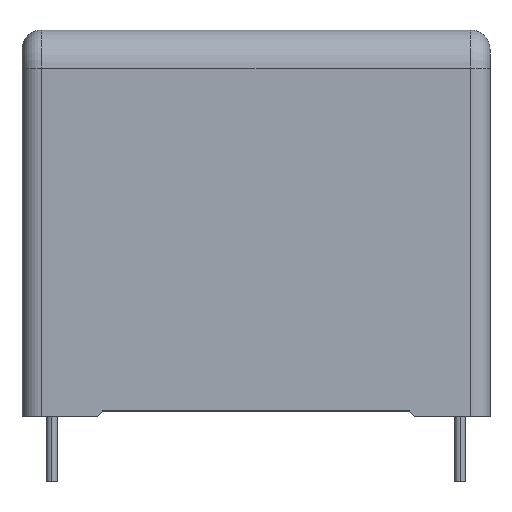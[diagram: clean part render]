
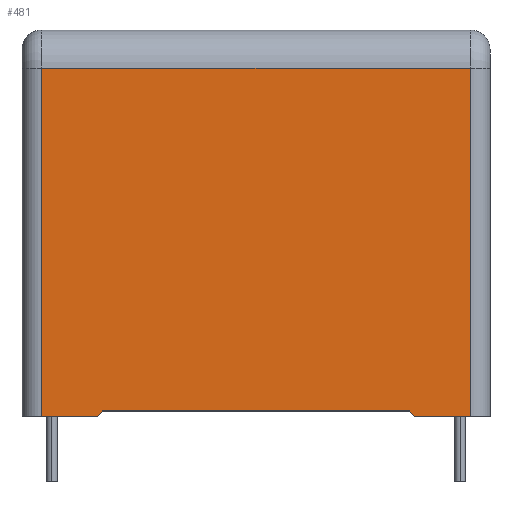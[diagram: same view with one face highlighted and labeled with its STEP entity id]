
A CAD part, top view. The second image highlights one B-rep face of the part: STEP entity #481.
In plain terms, the highlighted planar face has unit normal (0, 0, 1).
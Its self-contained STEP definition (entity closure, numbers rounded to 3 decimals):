
#17 = DIRECTION ( 'NONE',  ( -1., 0., 0. ) ) ;
#20 = VERTEX_POINT ( 'NONE', #2074 ) ;
#27 = DIRECTION ( 'NONE',  ( 1., 0., 0. ) ) ;
#156 = LINE ( 'NONE', #4207, #4313 ) ;
#255 = DIRECTION ( 'NONE',  ( 1., 0., 0. ) ) ;
#286 = EDGE_CURVE ( 'NONE', #4299, #774, #679, .T. ) ;
#481 = ADVANCED_FACE ( 'NONE', ( #2543 ), #3542, .F. ) ;
#584 = VECTOR ( 'NONE', #1099, 1000. ) ;
#629 = VECTOR ( 'NONE', #737, 1000. ) ;
#679 = LINE ( 'NONE', #1158, #584 ) ;
#685 = LINE ( 'NONE', #3106, #629 ) ;
#690 = VERTEX_POINT ( 'NONE', #4089 ) ;
#737 = DIRECTION ( 'NONE',  ( -1., 0., 0. ) ) ;
#741 = VERTEX_POINT ( 'NONE', #3686 ) ;
#774 = VERTEX_POINT ( 'NONE', #2278 ) ;
#1059 = EDGE_CURVE ( 'NONE', #3982, #20, #1869, .T. ) ;
#1099 = DIRECTION ( 'NONE',  ( -0.707, -0.707, 0. ) ) ;
#1102 = DIRECTION ( 'NONE',  ( 0., -1., 0. ) ) ;
#1138 = LINE ( 'NONE', #2950, #4012 ) ;
#1158 = CARTESIAN_POINT ( 'NONE',  ( -14.6, 0., 9.25 ) ) ;
#1191 = CARTESIAN_POINT ( 'NONE',  ( 14.6, 0., 9.25 ) ) ;
#1235 = CARTESIAN_POINT ( 'NONE',  ( 19.7, 0., 9.25 ) ) ;
#1250 = CARTESIAN_POINT ( 'NONE',  ( 19.7, 32., 9.25 ) ) ;
#1294 = LINE ( 'NONE', #3379, #3745 ) ;
#1594 = CARTESIAN_POINT ( 'NONE',  ( -14.1, 0.5, 9.25 ) ) ;
#1705 = ORIENTED_EDGE ( 'NONE', *, *, #2304, .T. ) ;
#1718 = VECTOR ( 'NONE', #4042, 1000. ) ;
#1869 = LINE ( 'NONE', #1950, #1718 ) ;
#1950 = CARTESIAN_POINT ( 'NONE',  ( 14.1, 0.5, 9.25 ) ) ;
#1991 = CARTESIAN_POINT ( 'NONE',  ( -14.1, 0.5, 9.25 ) ) ;
#2005 = EDGE_LOOP ( 'NONE', ( #3728, #3883, #3979, #4088, #1705, #2797, #3107, #3428 ) ) ;
#2060 = VECTOR ( 'NONE', #17, 1000. ) ;
#2074 = CARTESIAN_POINT ( 'NONE',  ( 14.1, 0.5, 9.25 ) ) ;
#2090 = EDGE_CURVE ( 'NONE', #4229, #4262, #156, .T. ) ;
#2127 = DIRECTION ( 'NONE',  ( 0., 1., 0. ) ) ;
#2278 = CARTESIAN_POINT ( 'NONE',  ( -14.6, 0., 9.25 ) ) ;
#2304 = EDGE_CURVE ( 'NONE', #4262, #690, #685, .T. ) ;
#2338 = EDGE_CURVE ( 'NONE', #690, #741, #1294, .T. ) ;
#2397 = LINE ( 'NONE', #1594, #2060 ) ;
#2543 = FACE_OUTER_BOUND ( 'NONE', #2005, .T. ) ;
#2679 = EDGE_CURVE ( 'NONE', #741, #774, #1138, .T. ) ;
#2719 = LINE ( 'NONE', #2826, #4165 ) ;
#2797 = ORIENTED_EDGE ( 'NONE', *, *, #2338, .T. ) ;
#2826 = CARTESIAN_POINT ( 'NONE',  ( -21.5, 0., 9.25 ) ) ;
#2950 = CARTESIAN_POINT ( 'NONE',  ( -21.5, 0., 9.25 ) ) ;
#3106 = CARTESIAN_POINT ( 'NONE',  ( -21.5, 32., 9.25 ) ) ;
#3107 = ORIENTED_EDGE ( 'NONE', *, *, #2679, .T. ) ;
#3287 = AXIS2_PLACEMENT_3D ( 'NONE', #3405, #3377, #3305 ) ;
#3305 = DIRECTION ( 'NONE',  ( -1., 0., 0. ) ) ;
#3377 = DIRECTION ( 'NONE',  ( 0., 0., -1. ) ) ;
#3379 = CARTESIAN_POINT ( 'NONE',  ( -19.7, 35.5, 9.25 ) ) ;
#3405 = CARTESIAN_POINT ( 'NONE',  ( -21.5, 35.5, 9.25 ) ) ;
#3428 = ORIENTED_EDGE ( 'NONE', *, *, #286, .F. ) ;
#3542 = PLANE ( 'NONE',  #3287 ) ;
#3566 = EDGE_CURVE ( 'NONE', #3982, #4229, #2719, .T. ) ;
#3686 = CARTESIAN_POINT ( 'NONE',  ( -19.7, 0., 9.25 ) ) ;
#3728 = ORIENTED_EDGE ( 'NONE', *, *, #4241, .F. ) ;
#3745 = VECTOR ( 'NONE', #1102, 1000. ) ;
#3883 = ORIENTED_EDGE ( 'NONE', *, *, #1059, .F. ) ;
#3979 = ORIENTED_EDGE ( 'NONE', *, *, #3566, .T. ) ;
#3982 = VERTEX_POINT ( 'NONE', #1191 ) ;
#4012 = VECTOR ( 'NONE', #27, 1000. ) ;
#4042 = DIRECTION ( 'NONE',  ( -0.707, 0.707, 0. ) ) ;
#4088 = ORIENTED_EDGE ( 'NONE', *, *, #2090, .T. ) ;
#4089 = CARTESIAN_POINT ( 'NONE',  ( -19.7, 32., 9.25 ) ) ;
#4165 = VECTOR ( 'NONE', #255, 1000. ) ;
#4207 = CARTESIAN_POINT ( 'NONE',  ( 19.7, 35.5, 9.25 ) ) ;
#4229 = VERTEX_POINT ( 'NONE', #1235 ) ;
#4241 = EDGE_CURVE ( 'NONE', #20, #4299, #2397, .T. ) ;
#4262 = VERTEX_POINT ( 'NONE', #1250 ) ;
#4299 = VERTEX_POINT ( 'NONE', #1991 ) ;
#4313 = VECTOR ( 'NONE', #2127, 1000. ) ;
